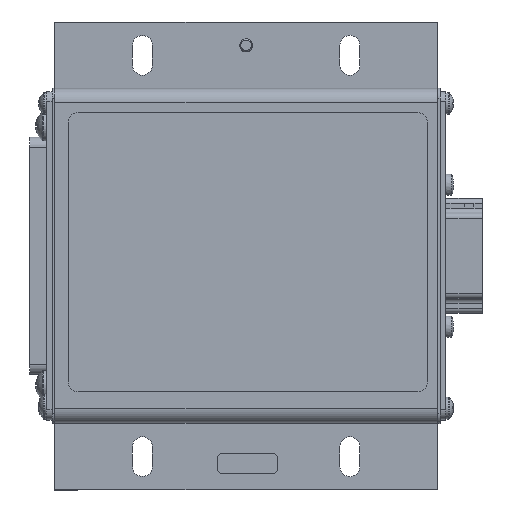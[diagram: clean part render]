
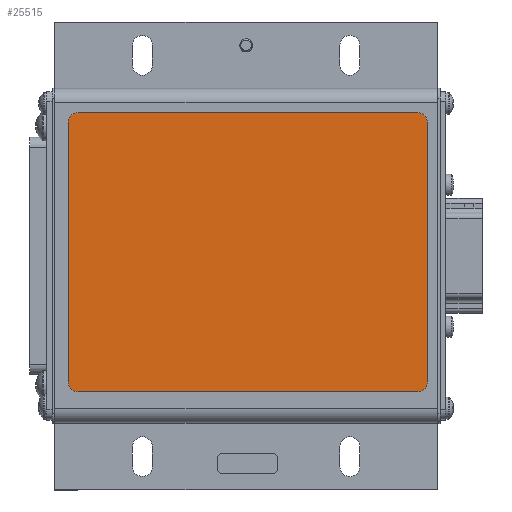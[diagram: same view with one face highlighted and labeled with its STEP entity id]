
A CAD part, top view. The second image highlights one B-rep face of the part: STEP entity #25515.
In plain terms, the highlighted planar face has unit normal (0, 0, 1).
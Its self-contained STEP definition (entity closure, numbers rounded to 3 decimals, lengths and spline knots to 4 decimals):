
#1827=LINE('',#37786,#3760);
#1833=LINE('',#37806,#3766);
#1836=LINE('',#37814,#3769);
#1838=LINE('',#37820,#3771);
#3760=VECTOR('',#30031,0.3937);
#3766=VECTOR('',#30051,0.3937);
#3769=VECTOR('',#30060,0.3937);
#3771=VECTOR('',#30068,0.3937);
#6079=FACE_OUTER_BOUND('',#7600,.T.);
#7600=EDGE_LOOP('',(#17118,#17119,#17120,#17121,#17122,#17123,#17124,#17125));
#9353=CIRCLE('',#27101,0.125);
#9358=CIRCLE('',#27109,0.125);
#9359=CIRCLE('',#27112,0.125);
#9360=CIRCLE('',#27115,0.125);
#10735=VERTEX_POINT('',#37773);
#10736=VERTEX_POINT('',#37774);
#10740=VERTEX_POINT('',#37784);
#10746=VERTEX_POINT('',#37800);
#10747=VERTEX_POINT('',#37804);
#10748=VERTEX_POINT('',#37808);
#10749=VERTEX_POINT('',#37809);
#10750=VERTEX_POINT('',#37816);
#13288=EDGE_CURVE('',#10735,#10736,#9353,.T.);
#13294=EDGE_CURVE('',#10740,#10735,#1827,.T.);
#13301=EDGE_CURVE('',#10746,#10740,#9358,.T.);
#13304=EDGE_CURVE('',#10747,#10746,#1833,.T.);
#13305=EDGE_CURVE('',#10748,#10749,#9359,.T.);
#13308=EDGE_CURVE('',#10736,#10748,#1836,.T.);
#13309=EDGE_CURVE('',#10750,#10747,#9360,.T.);
#13311=EDGE_CURVE('',#10749,#10750,#1838,.T.);
#17118=ORIENTED_EDGE('',*,*,#13288,.F.);
#17119=ORIENTED_EDGE('',*,*,#13294,.F.);
#17120=ORIENTED_EDGE('',*,*,#13301,.F.);
#17121=ORIENTED_EDGE('',*,*,#13304,.F.);
#17122=ORIENTED_EDGE('',*,*,#13309,.F.);
#17123=ORIENTED_EDGE('',*,*,#13311,.F.);
#17124=ORIENTED_EDGE('',*,*,#13305,.F.);
#17125=ORIENTED_EDGE('',*,*,#13308,.F.);
#24653=PLANE('',#27117);
#25515=ADVANCED_FACE('',(#6079),#24653,.T.);
#27101=AXIS2_PLACEMENT_3D('',#37775,#30021,#30022);
#27109=AXIS2_PLACEMENT_3D('',#37801,#30045,#30046);
#27112=AXIS2_PLACEMENT_3D('',#37810,#30054,#30055);
#27115=AXIS2_PLACEMENT_3D('',#37817,#30063,#30064);
#27117=AXIS2_PLACEMENT_3D('',#37821,#30069,#30070);
#30021=DIRECTION('center_axis',(0.,0.,
-1.));
#30022=DIRECTION('ref_axis',(-0.707,0.707,0.));
#30031=DIRECTION('',(0.,1.,0.));
#30045=DIRECTION('center_axis',(0.,0.,
-1.));
#30046=DIRECTION('ref_axis',(-0.707,-0.707,0.));
#30051=DIRECTION('',(-1.,0.,0.));
#30054=DIRECTION('center_axis',(0.,0.,
-1.));
#30055=DIRECTION('ref_axis',(0.707,0.707,0.));
#30060=DIRECTION('',(1.,0.,0.));
#30063=DIRECTION('center_axis',(0.,0.,
-1.));
#30064=DIRECTION('ref_axis',(0.707,-0.707,0.));
#30068=DIRECTION('',(0.,-1.,0.));
#30069=DIRECTION('center_axis',(0.,0.,
1.));
#30070=DIRECTION('ref_axis',(-1.,0.,0.));
#37773=CARTESIAN_POINT('',(-3.8178,3.8372,1.447));
#37774=CARTESIAN_POINT('',(-3.6928,3.9622,1.447));
#37775=CARTESIAN_POINT('Origin',(-3.6928,3.8372,1.447));
#37784=CARTESIAN_POINT('',(-3.8178,0.5872,1.447));
#37786=CARTESIAN_POINT('',(-3.8178,3.9622,1.447));
#37800=CARTESIAN_POINT('',(-3.6928,0.4622,1.447));
#37801=CARTESIAN_POINT('Origin',(-3.6928,0.5872,1.447));
#37804=CARTESIAN_POINT('',(0.5572,0.4622,1.447));
#37806=CARTESIAN_POINT('',(-3.8178,0.4622,1.447));
#37808=CARTESIAN_POINT('',(0.5572,3.9622,1.447));
#37809=CARTESIAN_POINT('',(0.6822,3.8372,1.447));
#37810=CARTESIAN_POINT('Origin',(0.5572,3.8372,1.447));
#37814=CARTESIAN_POINT('',(0.6822,3.9622,1.447));
#37816=CARTESIAN_POINT('',(0.6822,0.5872,1.447));
#37817=CARTESIAN_POINT('Origin',(0.5572,0.5872,1.447));
#37820=CARTESIAN_POINT('',(0.6822,0.4622,1.447));
#37821=CARTESIAN_POINT('Origin',(-1.5678,2.2122,1.447));
